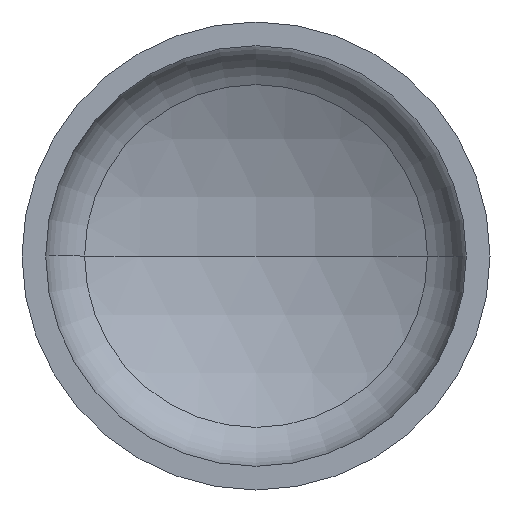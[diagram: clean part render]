
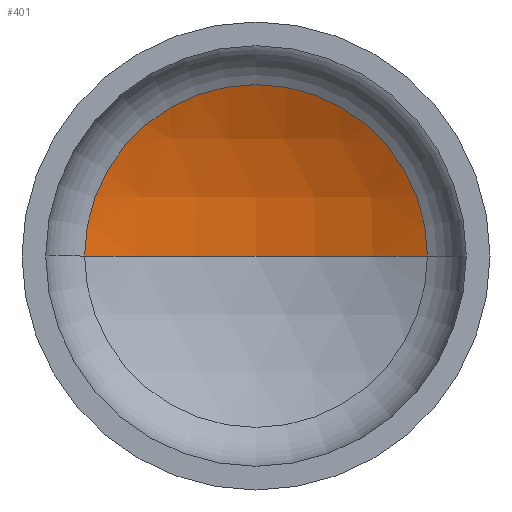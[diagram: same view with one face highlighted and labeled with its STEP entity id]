
A CAD part, front view. The second image highlights one B-rep face of the part: STEP entity #401.
In plain terms, the highlighted spherical face has radius 1200 mm.
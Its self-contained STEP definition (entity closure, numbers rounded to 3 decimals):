
#8 = CIRCLE ( 'NONE', #24, 1200. ) ;
#14 = DIRECTION ( 'NONE',  ( 1., 0., 0. ) ) ;
#20 = DIRECTION ( 'NONE',  ( 0., 0., 1. ) ) ;
#24 = AXIS2_PLACEMENT_3D ( 'NONE', #31, #20, #14 ) ;
#25 = DIRECTION ( 'NONE',  ( 0., 0., -1. ) ) ;
#26 = EDGE_LOOP ( 'NONE', ( #328, #250, #136 ) ) ;
#27 = VERTEX_POINT ( 'NONE', #287 ) ;
#31 = CARTESIAN_POINT ( 'NONE',  ( 0., -742.418, 0. ) ) ;
#32 = AXIS2_PLACEMENT_3D ( 'NONE', #246, #245, #176 ) ;
#36 = AXIS2_PLACEMENT_3D ( 'NONE', #224, #394, #188 ) ;
#88 = DIRECTION ( 'NONE',  ( -1., 0., 0. ) ) ;
#115 = VERTEX_POINT ( 'NONE', #317 ) ;
#131 = CARTESIAN_POINT ( 'NONE',  ( 0., -742.418, 0. ) ) ;
#136 = ORIENTED_EDGE ( 'NONE', *, *, #159, .T. ) ;
#159 = EDGE_CURVE ( 'NONE', #162, #27, #304, .T. ) ;
#162 = VERTEX_POINT ( 'NONE', #313 ) ;
#176 = DIRECTION ( 'NONE',  ( -1., 0., 0. ) ) ;
#183 = EDGE_CURVE ( 'NONE', #115, #162, #242, .T. ) ;
#188 = DIRECTION ( 'NONE',  ( 1., 0., 0. ) ) ;
#191 = EDGE_CURVE ( 'NONE', #115, #27, #8, .T. ) ;
#224 = CARTESIAN_POINT ( 'NONE',  ( 0., 324.491, 0. ) ) ;
#242 = CIRCLE ( 'NONE', #32, 1200. ) ;
#245 = DIRECTION ( 'NONE',  ( 0., 0., -1. ) ) ;
#246 = CARTESIAN_POINT ( 'NONE',  ( 0., -742.418, 0. ) ) ;
#250 = ORIENTED_EDGE ( 'NONE', *, *, #183, .T. ) ;
#254 = FACE_OUTER_BOUND ( 'NONE', #26, .T. ) ;
#287 = CARTESIAN_POINT ( 'NONE',  ( -549.278, 324.491, 0. ) ) ;
#304 = CIRCLE ( 'NONE', #36, 549.278 ) ;
#308 = SPHERICAL_SURFACE ( 'NONE', #364, 1200. ) ;
#313 = CARTESIAN_POINT ( 'NONE',  ( 549.278, 324.491, 0. ) ) ;
#317 = CARTESIAN_POINT ( 'NONE',  ( 0., 457.582, 0. ) ) ;
#328 = ORIENTED_EDGE ( 'NONE', *, *, #191, .F. ) ;
#364 = AXIS2_PLACEMENT_3D ( 'NONE', #131, #25, #88 ) ;
#394 = DIRECTION ( 'NONE',  ( 0., -1., 0. ) ) ;
#401 = ADVANCED_FACE ( 'NONE', ( #254 ), #308, .F. ) ;
